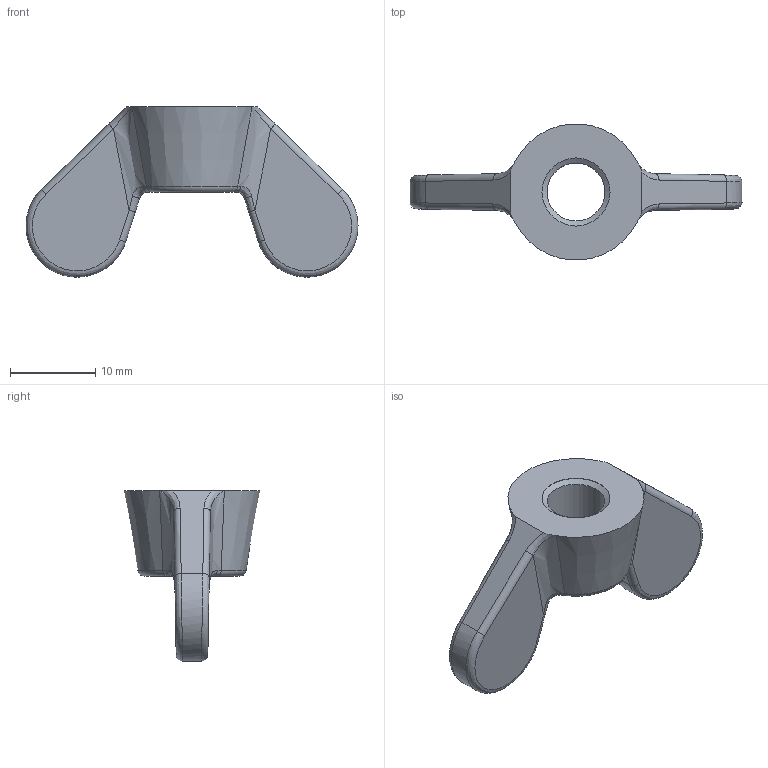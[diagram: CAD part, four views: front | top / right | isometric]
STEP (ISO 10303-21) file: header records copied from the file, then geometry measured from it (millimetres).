
FILE_DESCRIPTION (( 'STEP AP203' ), '1' );
FILE_NAME ('Écrou à oreilles DIN 315 - M8.STEP', '2026-06-24T07:29:50', ( '' ), ( '' ), 'SwSTEP 2.0', 'SolidWorks 2024', '' );
FILE_SCHEMA (( 'CONFIG_CONTROL_DESIGN' ));
Length unit declared in the file: millimetre
Products named in the file (1): Écrou à oreilles DIN 315 - M8_DIN 315-M8-GT-C-C
Bounding box: 39 x 15.95 x 20 mm (x, y, z)
Volume: 2552 mm3; surface area: 1743.7 mm2
Topology: 1 solids, 1 shells, 55 faces, 128 edges, 75 vertices
Faces by surface type: bspline 24, cylinder 15, plane 10, cone 4, torus 2
Full cylindrical faces by diameter (mm): 6.8 x1, 8 x2
Entity records: 2295 total; most frequent: CARTESIAN_POINT 1184, ORIENTED_EDGE 244, DIRECTION 170, EDGE_CURVE 122, VERTEX_POINT 74, AXIS2_PLACEMENT_3D 72, EDGE_LOOP 62, FACE_OUTER_BOUND 58
